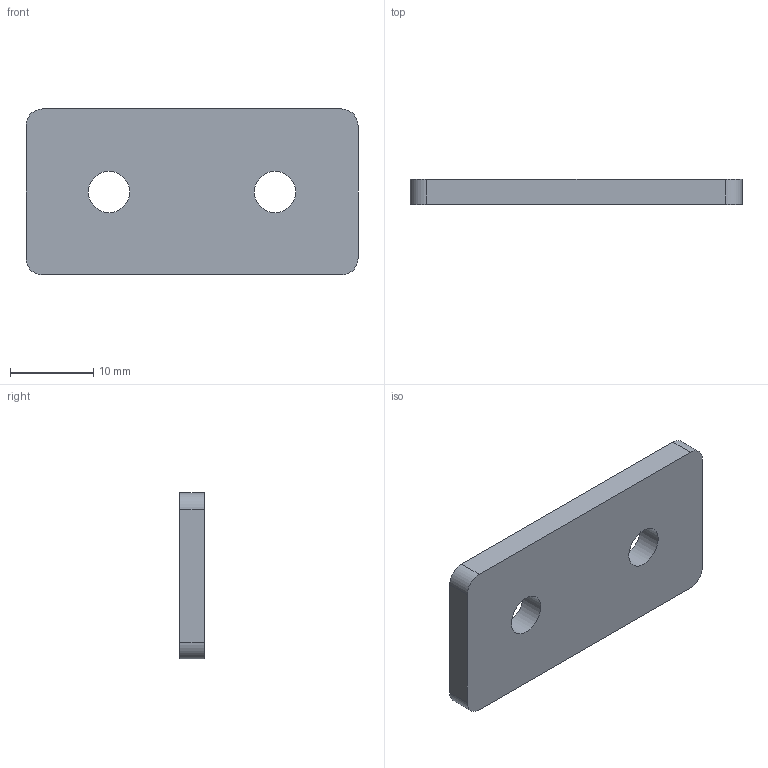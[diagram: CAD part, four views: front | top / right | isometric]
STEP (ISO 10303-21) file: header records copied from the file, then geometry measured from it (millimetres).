
FILE_DESCRIPTION( ( 'STEP AP203' ), '1' );
FILE_NAME( 'C:/Temp/Ganter_Step_05_03_2020/data/3_7/gn_967/gn_967_2/gn_967_2_f/Shackle GN 967-20-40-F-2-SR.stp', '2020-03-12T14:48:23', ( 'License CC BY-ND 4.0' ), ( 'CADENAS' ), ' ', 'PARTsolutions', ' ' );
FILE_SCHEMA( ( 'CONFIG_CONTROL_DESIGN' ) );
Length unit declared in the file: millimetre
Products named in the file (1): _Shackle GN 967-20-40-F-2-SR
Bounding box: 40 x 3 x 20 mm (x, y, z)
Volume: 2271.9 mm3; surface area: 1958.5 mm2
Topology: 1 solids, 1 shells, 12 faces, 30 edges, 20 vertices
Faces by surface type: plane 6, cylinder 6
Full cylindrical faces by diameter (mm): 5 x2
Entity records: 408 total; most frequent: DIRECTION 66, CARTESIAN_POINT 61, ORIENTED_EDGE 56, EDGE_CURVE 28, AXIS2_PLACEMENT_3D 25, VERTEX_POINT 20, EDGE_LOOP 18, LINE 16
